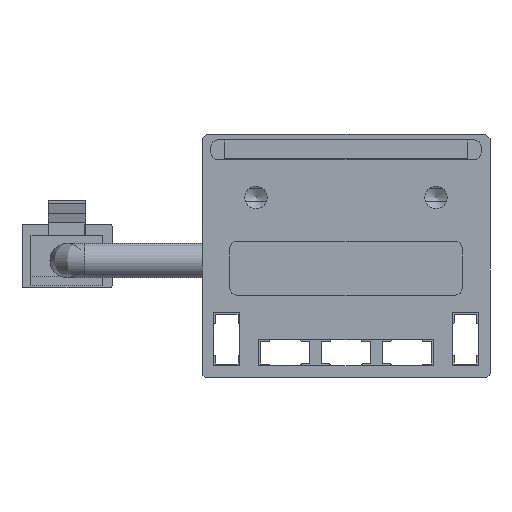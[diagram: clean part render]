
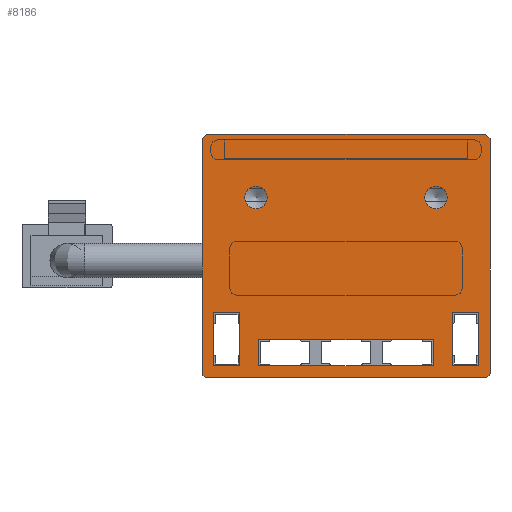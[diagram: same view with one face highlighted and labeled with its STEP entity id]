
A CAD part, front view. The second image highlights one B-rep face of the part: STEP entity #8186.
In plain terms, the highlighted planar face has unit normal (0, -1, 0).
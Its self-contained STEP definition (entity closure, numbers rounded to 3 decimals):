
#73=FACE_BOUND('',#1267,.T.);
#74=FACE_BOUND('',#1268,.T.);
#75=FACE_BOUND('',#1269,.T.);
#76=FACE_BOUND('',#1270,.T.);
#77=FACE_BOUND('',#1271,.T.);
#415=CIRCLE('',#8878,1.265);
#417=CIRCLE('',#8882,1.265);
#419=CIRCLE('',#8897,0.5);
#421=CIRCLE('',#8905,0.5);
#836=FACE_OUTER_BOUND('',#1266,.T.);
#1266=EDGE_LOOP('',(#7410,#7411,#7412,#7413,#7414,#7415,#7416,#7417));
#1267=EDGE_LOOP('',(#7418));
#1268=EDGE_LOOP('',(#7419));
#1269=EDGE_LOOP('',(#7420,#7421,#7422,#7423));
#1270=EDGE_LOOP('',(#7424,#7425,#7426,#7427));
#1271=EDGE_LOOP('',(#7428,#7429,#7430,#7431));
#2172=LINE('',#13450,#3109);
#2175=LINE('',#13456,#3112);
#2178=LINE('',#13462,#3115);
#2181=LINE('',#13466,#3118);
#2184=LINE('',#13474,#3121);
#2187=LINE('',#13480,#3124);
#2190=LINE('',#13486,#3127);
#2193=LINE('',#13490,#3130);
#2196=LINE('',#13498,#3133);
#2199=LINE('',#13504,#3136);
#2202=LINE('',#13510,#3139);
#2205=LINE('',#13514,#3142);
#2209=LINE('',#13528,#3146);
#2212=LINE('',#13534,#3149);
#2215=LINE('',#13540,#3152);
#2218=LINE('',#13546,#3155);
#2221=LINE('',#13552,#3158);
#2225=LINE('',#13562,#3162);
#3109=VECTOR('',#11065,10.);
#3112=VECTOR('',#11070,10.);
#3115=VECTOR('',#11075,10.);
#3118=VECTOR('',#11080,10.);
#3121=VECTOR('',#11085,10.);
#3124=VECTOR('',#11090,10.);
#3127=VECTOR('',#11095,10.);
#3130=VECTOR('',#11100,10.);
#3133=VECTOR('',#11105,10.);
#3136=VECTOR('',#11110,10.);
#3139=VECTOR('',#11115,10.);
#3142=VECTOR('',#11120,10.);
#3146=VECTOR('',#11132,10.);
#3149=VECTOR('',#11137,10.);
#3152=VECTOR('',#11142,10.);
#3155=VECTOR('',#11147,10.);
#3158=VECTOR('',#11152,10.);
#3162=VECTOR('',#11164,10.);
#3903=VERTEX_POINT('',#13431);
#3906=VERTEX_POINT('',#13440);
#3909=VERTEX_POINT('',#13447);
#3910=VERTEX_POINT('',#13449);
#3912=VERTEX_POINT('',#13455);
#3914=VERTEX_POINT('',#13461);
#3917=VERTEX_POINT('',#13471);
#3918=VERTEX_POINT('',#13473);
#3920=VERTEX_POINT('',#13479);
#3922=VERTEX_POINT('',#13485);
#3925=VERTEX_POINT('',#13495);
#3926=VERTEX_POINT('',#13497);
#3928=VERTEX_POINT('',#13503);
#3930=VERTEX_POINT('',#13509);
#3933=VERTEX_POINT('',#13519);
#3934=VERTEX_POINT('',#13521);
#3936=VERTEX_POINT('',#13527);
#3938=VERTEX_POINT('',#13533);
#3940=VERTEX_POINT('',#13539);
#3942=VERTEX_POINT('',#13545);
#3944=VERTEX_POINT('',#13551);
#3946=VERTEX_POINT('',#13557);
#5056=EDGE_CURVE('',#3903,#3903,#415,.T.);
#5060=EDGE_CURVE('',#3906,#3906,#417,.T.);
#5064=EDGE_CURVE('',#3910,#3909,#2172,.T.);
#5067=EDGE_CURVE('',#3912,#3910,#2175,.T.);
#5070=EDGE_CURVE('',#3914,#3912,#2178,.T.);
#5073=EDGE_CURVE('',#3909,#3914,#2181,.T.);
#5076=EDGE_CURVE('',#3918,#3917,#2184,.T.);
#5079=EDGE_CURVE('',#3920,#3918,#2187,.T.);
#5082=EDGE_CURVE('',#3922,#3920,#2190,.T.);
#5085=EDGE_CURVE('',#3917,#3922,#2193,.T.);
#5088=EDGE_CURVE('',#3926,#3925,#2196,.T.);
#5091=EDGE_CURVE('',#3928,#3926,#2199,.T.);
#5094=EDGE_CURVE('',#3930,#3928,#2202,.T.);
#5097=EDGE_CURVE('',#3925,#3930,#2205,.T.);
#5100=EDGE_CURVE('',#3934,#3933,#419,.T.);
#5103=EDGE_CURVE('',#3936,#3934,#2209,.T.);
#5106=EDGE_CURVE('',#3938,#3936,#2212,.T.);
#5109=EDGE_CURVE('',#3940,#3938,#2215,.T.);
#5112=EDGE_CURVE('',#3942,#3940,#2218,.T.);
#5115=EDGE_CURVE('',#3944,#3942,#2221,.T.);
#5118=EDGE_CURVE('',#3946,#3944,#421,.T.);
#5121=EDGE_CURVE('',#3933,#3946,#2225,.T.);
#7410=ORIENTED_EDGE('',*,*,#5121,.T.);
#7411=ORIENTED_EDGE('',*,*,#5118,.T.);
#7412=ORIENTED_EDGE('',*,*,#5115,.T.);
#7413=ORIENTED_EDGE('',*,*,#5112,.T.);
#7414=ORIENTED_EDGE('',*,*,#5109,.T.);
#7415=ORIENTED_EDGE('',*,*,#5106,.T.);
#7416=ORIENTED_EDGE('',*,*,#5103,.T.);
#7417=ORIENTED_EDGE('',*,*,#5100,.T.);
#7418=ORIENTED_EDGE('',*,*,#5056,.T.);
#7419=ORIENTED_EDGE('',*,*,#5060,.T.);
#7420=ORIENTED_EDGE('',*,*,#5097,.T.);
#7421=ORIENTED_EDGE('',*,*,#5094,.T.);
#7422=ORIENTED_EDGE('',*,*,#5091,.T.);
#7423=ORIENTED_EDGE('',*,*,#5088,.T.);
#7424=ORIENTED_EDGE('',*,*,#5085,.T.);
#7425=ORIENTED_EDGE('',*,*,#5082,.T.);
#7426=ORIENTED_EDGE('',*,*,#5079,.T.);
#7427=ORIENTED_EDGE('',*,*,#5076,.T.);
#7428=ORIENTED_EDGE('',*,*,#5073,.T.);
#7429=ORIENTED_EDGE('',*,*,#5070,.T.);
#7430=ORIENTED_EDGE('',*,*,#5067,.T.);
#7431=ORIENTED_EDGE('',*,*,#5064,.T.);
#7770=PLANE('',#8907);
#8186=ADVANCED_FACE('',(#836,#73,#74,#75,#76,#77),#7770,.T.);
#8878=AXIS2_PLACEMENT_3D('',#13432,#11048,#11049);
#8882=AXIS2_PLACEMENT_3D('',#13441,#11058,#11059);
#8897=AXIS2_PLACEMENT_3D('',#13522,#11126,#11127);
#8905=AXIS2_PLACEMENT_3D('',#13558,#11158,#11159);
#8907=AXIS2_PLACEMENT_3D('',#13563,#11165,#11166);
#11048=DIRECTION('center_axis',(0.,1.,0.));
#11049=DIRECTION('ref_axis',(0.,0.,-1.));
#11058=DIRECTION('center_axis',(0.,1.,0.));
#11059=DIRECTION('ref_axis',(0.,0.,-1.));
#11065=DIRECTION('',(0.,0.,-1.));
#11070=DIRECTION('',(1.,0.,0.));
#11075=DIRECTION('',(0.,0.,1.));
#11080=DIRECTION('',(-1.,0.,0.));
#11085=DIRECTION('',(0.,0.,-1.));
#11090=DIRECTION('',(1.,0.,0.));
#11095=DIRECTION('',(0.,0.,1.));
#11100=DIRECTION('',(-1.,0.,0.));
#11105=DIRECTION('',(0.,0.,-1.));
#11110=DIRECTION('',(1.,0.,0.));
#11115=DIRECTION('',(0.,0.,1.));
#11120=DIRECTION('',(-1.,0.,0.));
#11126=DIRECTION('center_axis',(0.,-1.,0.));
#11127=DIRECTION('ref_axis',(-1.,0.,0.));
#11132=DIRECTION('',(0.,0.,-1.));
#11137=DIRECTION('',(-0.707,0.,-0.707));
#11142=DIRECTION('',(-1.,0.,0.));
#11147=DIRECTION('',(-0.707,0.,0.707));
#11152=DIRECTION('',(0.,0.,1.));
#11158=DIRECTION('center_axis',(0.,-1.,0.));
#11159=DIRECTION('ref_axis',(0.,0.,-1.));
#11164=DIRECTION('',(1.,0.,0.));
#11165=DIRECTION('center_axis',(0.,-1.,0.));
#11166=DIRECTION('ref_axis',(1.,0.,0.));
#13431=CARTESIAN_POINT('',(-10.,-407.5,21.265));
#13432=CARTESIAN_POINT('Origin',(-10.,-407.5,20.));
#13440=CARTESIAN_POINT('',(10.,-407.5,21.265));
#13441=CARTESIAN_POINT('Origin',(10.,-407.5,20.));
#13447=CARTESIAN_POINT('',(9.7,-407.5,1.3));
#13449=CARTESIAN_POINT('',(9.7,-407.5,4.2));
#13450=CARTESIAN_POINT('',(9.7,-407.5,4.2));
#13455=CARTESIAN_POINT('',(-9.7,-407.5,4.2));
#13456=CARTESIAN_POINT('',(-9.7,-407.5,4.2));
#13461=CARTESIAN_POINT('',(-9.7,-407.5,1.3));
#13462=CARTESIAN_POINT('',(-9.7,-407.5,1.3));
#13466=CARTESIAN_POINT('',(9.7,-407.5,1.3));
#13471=CARTESIAN_POINT('',(-11.8,-407.5,1.3));
#13473=CARTESIAN_POINT('',(-11.8,-407.5,7.2));
#13474=CARTESIAN_POINT('',(-11.8,-407.5,7.2));
#13479=CARTESIAN_POINT('',(-14.7,-407.5,7.2));
#13480=CARTESIAN_POINT('',(-14.7,-407.5,7.2));
#13485=CARTESIAN_POINT('',(-14.7,-407.5,1.3));
#13486=CARTESIAN_POINT('',(-14.7,-407.5,1.3));
#13490=CARTESIAN_POINT('',(-11.8,-407.5,1.3));
#13495=CARTESIAN_POINT('',(14.7,-407.5,1.3));
#13497=CARTESIAN_POINT('',(14.7,-407.5,7.2));
#13498=CARTESIAN_POINT('',(14.7,-407.5,7.2));
#13503=CARTESIAN_POINT('',(11.8,-407.5,7.2));
#13504=CARTESIAN_POINT('',(11.8,-407.5,7.2));
#13509=CARTESIAN_POINT('',(11.8,-407.5,1.3));
#13510=CARTESIAN_POINT('',(11.8,-407.5,1.3));
#13514=CARTESIAN_POINT('',(14.7,-407.5,1.3));
#13519=CARTESIAN_POINT('',(-15.5,-407.5,0.));
#13521=CARTESIAN_POINT('',(-16.,-407.5,0.5));
#13522=CARTESIAN_POINT('Origin',(-15.5,-407.5,0.5));
#13527=CARTESIAN_POINT('',(-16.,-407.5,26.5));
#13528=CARTESIAN_POINT('',(-16.,-407.5,0.5));
#13533=CARTESIAN_POINT('',(-15.5,-407.5,27.));
#13534=CARTESIAN_POINT('',(-16.,-407.5,26.5));
#13539=CARTESIAN_POINT('',(15.5,-407.5,27.));
#13540=CARTESIAN_POINT('',(-15.5,-407.5,27.));
#13545=CARTESIAN_POINT('',(16.,-407.5,26.5));
#13546=CARTESIAN_POINT('',(15.5,-407.5,27.));
#13551=CARTESIAN_POINT('',(16.,-407.5,0.5));
#13552=CARTESIAN_POINT('',(16.,-407.5,26.5));
#13557=CARTESIAN_POINT('',(15.5,-407.5,0.));
#13558=CARTESIAN_POINT('Origin',(15.5,-407.5,0.5));
#13562=CARTESIAN_POINT('',(15.5,-407.5,0.));
#13563=CARTESIAN_POINT('Origin',(0.,-407.5,13.5));
